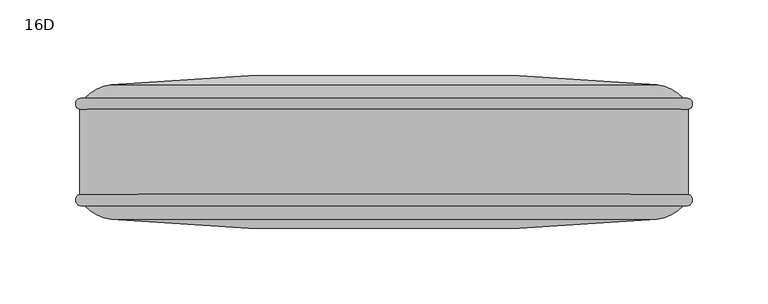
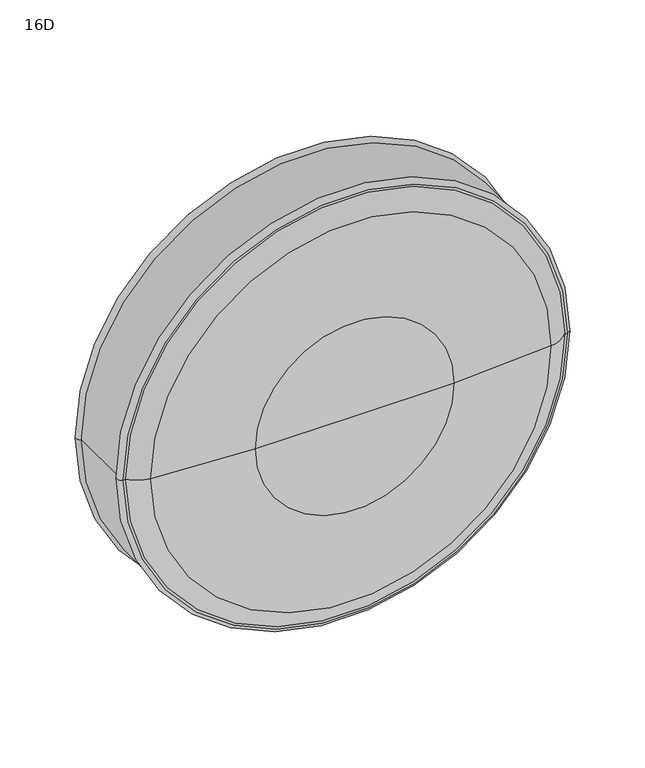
"""IFC4 building model written with IfcOpenShell, lengths in millimetres: furniture geometry, Steelcase Coalesse - Evaneau - Seating - Round Back Pillow : 16D."""

from ifc_helpers import new_model, si_unit, point, frame, origin, place, context, project, spatial, circle_curve, ellipse_curve, trimmed, source, transform, mapped, element, save
from ifc_brep_helpers import plane_surface, revolved_surface, advanced_brep


def furniture_16d_863c8917(model_context):
    return source(origin(), model_context, "Body", "AdvancedBrep", [
        advanced_brep(
        [(-551.4822406, 211.5061362, 635.147828), (-372.5573422, 211.5061362, 635.147828), (-462.0197914, 211.5061362, 635.147828), (-642.5702853, 217.4372422, 635.147828), (-281.4692975, 217.4372422, 635.147828), (-660.1224116, 226.3650403, 635.147828), (-263.9171712, 226.3650403, 635.147828), (-662.2956364, 226.3650403, 635.147828), (-261.7439464, 226.3650403, 635.147828), (-663.1870501, 233.7918762, 635.147828), (-260.8525326, 233.7918762, 635.147828), (-663.1870501, 290.0927336, 635.147828), (-260.8525326, 290.0927336, 635.147828), (-662.2956364, 297.5195695, 635.147828), (-261.7439464, 297.5195695, 635.147828), (-660.1224116, 297.5195695, 635.147828), (-263.9171712, 297.5195695, 635.147828), (-642.5702853, 306.4473676, 635.147828), (-281.4692975, 306.4473676, 635.147828), (-551.4822406, 312.3784735, 635.147828), (-372.5573422, 312.3784735, 635.147828), (-462.0197914, 312.3784735, 635.147828)],
        [
            (0, 1, circle_curve(frame((-462.0197914, 211.5061362, 635.147828), z_axis=(0.0, -1.0, 0.0), x_axis=(1.0, 0.0, 0.0)), 89.4624492)),
            (1, 2),
            (2, 0),
            (1, 0, circle_curve(frame((-462.0197914, 211.5061362, 635.147828), z_axis=(0.0, -1.0, 0.0), x_axis=(1.0, 0.0, 0.0)), 89.4624492)),
            (3, 4, circle_curve(frame((-462.0197914, 217.4372422, 635.147828), z_axis=(0.0, -1.0, 0.0), x_axis=(1.0, 0.0, 0.0)), 180.5504939)),
            (4, 1, circle_curve(frame((-372.5573422, 913.9223398, 635.147828), z_axis=(0.0, 0.0, -1.0), x_axis=(-1.0, 0.0, 0.0)), 702.4162036)),
            (0, 3, circle_curve(frame((-551.4822406, 913.9223398, 635.147828), z_axis=(0.0, 0.0, -1.0), x_axis=(1.0, 0.0, 0.0)), 702.4162036)),
            (4, 3, circle_curve(frame((-462.0197914, 217.4372422, 635.147828), z_axis=(0.0, -1.0, 0.0), x_axis=(1.0, 0.0, 0.0)), 180.5504939)),
            (5, 6, circle_curve(frame((-462.0197914, 226.3650403, 635.147828), z_axis=(0.0, -1.0, 0.0), x_axis=(1.0, 0.0, 0.0)), 198.1026202)),
            (6, 4, circle_curve(frame((-285.2926528, 246.6717041, 635.147828), z_axis=(0.0, 0.0, -1.0), x_axis=(-1.0, 0.0, 0.0)), 29.4834159)),
            (3, 5, circle_curve(frame((-638.74693, 246.6717041, 635.147828), z_axis=(0.0, 0.0, -1.0), x_axis=(1.0, 0.0, 0.0)), 29.4834159)),
            (6, 5, circle_curve(frame((-462.0197914, 226.3650403, 635.147828), z_axis=(0.0, -1.0, 0.0), x_axis=(1.0, 0.0, 0.0)), 198.1026202)),
            (7, 8, circle_curve(frame((-462.0197914, 226.3650403, 635.147828), z_axis=(0.0, -1.0, 0.0), x_axis=(1.0, 0.0, 0.0)), 200.275845)),
            (8, 6),
            (5, 7),
            (8, 7, circle_curve(frame((-462.0197914, 226.3650403, 635.147828), z_axis=(0.0, -1.0, 0.0), x_axis=(1.0, 0.0, 0.0)), 200.275845)),
            (9, 10, circle_curve(frame((-462.0197914, 233.7918762, 635.147828), z_axis=(0.0, -1.0, 0.0), x_axis=(1.0, 0.0, 0.0)), 201.1672588)),
            (10, 8, circle_curve(frame((-261.7439464, 230.1319547, 635.147828), z_axis=(0.0, 0.0, -1.0), x_axis=(-1.0, 0.0, 0.0)), 3.7669144)),
            (7, 9, circle_curve(frame((-662.2956364, 230.1319547, 635.147828), z_axis=(0.0, 0.0, -1.0), x_axis=(1.0, 0.0, 0.0)), 3.7669144)),
            (10, 9, circle_curve(frame((-462.0197914, 233.7918762, 635.147828), z_axis=(0.0, -1.0, 0.0), x_axis=(1.0, 0.0, 0.0)), 201.1672588)),
            (11, 12, circle_curve(frame((-462.0197914, 290.0927336, 635.147828), z_axis=(0.0, -1.0, 0.0), x_axis=(1.0, 0.0, 0.0)), 201.1672588)),
            (12, 10, circle_curve(frame((-834.2739663, 261.9423049, 635.147828), z_axis=(0.0, 0.0, -1.0), x_axis=(-1.0, 0.0, 0.0)), 574.1119988)),
            (9, 11, circle_curve(frame((-89.7656165, 261.9423049, 635.147828), z_axis=(0.0, 0.0, -1.0), x_axis=(1.0, 0.0, 0.0)), 574.1119988)),
            (12, 11, circle_curve(frame((-462.0197914, 290.0927336, 635.147828), z_axis=(0.0, -1.0, 0.0), x_axis=(1.0, 0.0, 0.0)), 201.1672588)),
            (13, 14, circle_curve(frame((-462.0197914, 297.5195695, 635.147828), z_axis=(0.0, -1.0, 0.0), x_axis=(1.0, 0.0, 0.0)), 200.275845)),
            (14, 12, circle_curve(frame((-261.7439464, 293.7526551, 635.147828), z_axis=(0.0, 0.0, -1.0), x_axis=(-1.0, 0.0, 0.0)), 3.7669144)),
            (11, 13, circle_curve(frame((-662.2956364, 293.7526551, 635.147828), z_axis=(0.0, 0.0, -1.0), x_axis=(1.0, 0.0, 0.0)), 3.7669144)),
            (14, 13, circle_curve(frame((-462.0197914, 297.5195695, 635.147828), z_axis=(0.0, -1.0, 0.0), x_axis=(1.0, 0.0, 0.0)), 200.275845)),
            (15, 16, circle_curve(frame((-462.0197914, 297.5195695, 635.147828), z_axis=(0.0, -1.0, 0.0), x_axis=(1.0, 0.0, 0.0)), 198.1026202)),
            (16, 14),
            (13, 15),
            (16, 15, circle_curve(frame((-462.0197914, 297.5195695, 635.147828), z_axis=(0.0, -1.0, 0.0), x_axis=(1.0, 0.0, 0.0)), 198.1026202)),
            (17, 18, circle_curve(frame((-462.0197914, 306.4473676, 635.147828), z_axis=(0.0, -1.0, 0.0), x_axis=(1.0, 0.0, 0.0)), 180.5504939)),
            (18, 16, circle_curve(frame((-285.2926528, 277.2129056, 635.147828), z_axis=(0.0, 0.0, -1.0), x_axis=(-1.0, 0.0, 0.0)), 29.4834159)),
            (15, 17, circle_curve(frame((-638.74693, 277.2129056, 635.147828), z_axis=(0.0, 0.0, -1.0), x_axis=(1.0, 0.0, 0.0)), 29.4834159)),
            (18, 17, circle_curve(frame((-462.0197914, 306.4473676, 635.147828), z_axis=(0.0, -1.0, 0.0), x_axis=(1.0, 0.0, 0.0)), 180.5504939)),
            (19, 20, circle_curve(frame((-462.0197914, 312.3784735, 635.147828), z_axis=(0.0, -1.0, 0.0), x_axis=(1.0, 0.0, 0.0)), 89.4624492)),
            (20, 18, circle_curve(frame((-372.5573422, -390.0377301, 635.147828), z_axis=(0.0, 0.0, -1.0), x_axis=(-1.0, 0.0, 0.0)), 702.4162036)),
            (17, 19, circle_curve(frame((-551.4822406, -390.0377301, 635.147828), z_axis=(0.0, 0.0, -1.0), x_axis=(1.0, 0.0, 0.0)), 702.4162036)),
            (20, 19, circle_curve(frame((-462.0197914, 312.3784735, 635.147828), z_axis=(0.0, -1.0, 0.0), x_axis=(1.0, 0.0, 0.0)), 89.4624492)),
            (21, 20),
            (19, 21),
        ],
        [
            plane_surface(frame((-462.0197914, 211.5061362, 635.147828), z_axis=(0.0, -1.0, 0.0), x_axis=(1.0, 0.0, 0.0))),
            revolved_surface(trimmed(ellipse_curve(frame((-372.5573422, 913.9223398, 635.147828), z_axis=(0.0, 0.0, 1.0), x_axis=(-1.0, 0.0, 0.0)), 702.4162036, 702.4162036), [point((-372.5573422, 211.5061362, 635.147828))], [point((-281.4692975, 217.4372422, 635.147828))], True, "CARTESIAN"), (-462.0197914, 249.6061362, 635.147828), (0.0, 1.0, 0.0)),
            revolved_surface(trimmed(ellipse_curve(frame((-285.2926528, 246.6717041, 635.147828), z_axis=(0.0, 0.0, 1.0), x_axis=(-1.0, 0.0, 0.0)), 29.4834159, 29.4834159), [point((-281.4692975, 217.4372422, 635.147828))], [point((-263.9171712, 226.3650403, 635.147828))], True, "CARTESIAN"), (-462.0197914, 249.6061362, 635.147828), (0.0, 1.0, 0.0)),
            plane_surface(frame((-462.0197914, 226.3650403, 635.147828), z_axis=(0.0, -1.0, 0.0), x_axis=(1.0, 0.0, 0.0))),
            revolved_surface(trimmed(ellipse_curve(frame((-261.7439464, 230.1319547, 635.147828), z_axis=(0.0, 0.0, 1.0), x_axis=(-1.0, 0.0, 0.0)), 3.7669144, 3.7669144), [point((-261.7439464, 226.3650403, 635.147828))], [point((-260.8525326, 233.7918762, 635.147828))], True, "CARTESIAN"), (-462.0197914, 249.6061362, 635.147828), (0.0, 1.0, 0.0)),
            revolved_surface(trimmed(ellipse_curve(frame((-834.2739663, 261.9423049, 635.147828), z_axis=(0.0, 0.0, 1.0), x_axis=(-1.0, 0.0, 0.0)), 574.1119988, 574.1119988), [point((-260.8525326, 233.7918762, 635.147828))], [point((-260.8525326, 290.0927336, 635.147828))], True, "CARTESIAN"), (-462.0197914, 249.6061362, 635.147828), (0.0, 1.0, 0.0)),
            revolved_surface(trimmed(ellipse_curve(frame((-261.7439464, 293.7526551, 635.147828), z_axis=(0.0, 0.0, 1.0), x_axis=(-1.0, 0.0, 0.0)), 3.7669144, 3.7669144), [point((-260.8525326, 290.0927336, 635.147828))], [point((-261.7439464, 297.5195695, 635.147828))], True, "CARTESIAN"), (-462.0197914, 249.6061362, 635.147828), (0.0, 1.0, 0.0)),
            plane_surface(frame((-462.0197914, 297.5195695, 635.147828), z_axis=(0.0, 1.0, 0.0), x_axis=(1.0, 0.0, 0.0))),
            revolved_surface(trimmed(ellipse_curve(frame((-285.2926528, 277.2129056, 635.147828), z_axis=(0.0, 0.0, 1.0), x_axis=(-1.0, 0.0, 0.0)), 29.4834159, 29.4834159), [point((-263.9171712, 297.5195695, 635.147828))], [point((-281.4692975, 306.4473676, 635.147828))], True, "CARTESIAN"), (-462.0197914, 249.6061362, 635.147828), (0.0, 1.0, 0.0)),
            revolved_surface(trimmed(ellipse_curve(frame((-372.5573422, -390.0377301, 635.147828), z_axis=(0.0, 0.0, 1.0), x_axis=(-1.0, 0.0, 0.0)), 702.4162036, 702.4162036), [point((-281.4692975, 306.4473676, 635.147828))], [point((-372.5573422, 312.3784735, 635.147828))], True, "CARTESIAN"), (-462.0197914, 249.6061362, 635.147828), (0.0, 1.0, 0.0)),
            plane_surface(frame((-462.0197914, 312.3784735, 635.147828), z_axis=(0.0, 1.0, 0.0), x_axis=(1.0, 0.0, 0.0))),
        ],
        [
            (0, [[1, 2, 3]]),
            (0, [[4, -3, -2]]),
            (1, [[5, 6, -1, 7]]),
            (1, [[8, -7, -4, -6]]),
            (2, [[9, 10, -5, 11]]),
            (2, [[12, -11, -8, -10]]),
            (3, [[13, 14, -9, 15]]),
            (3, [[16, -15, -12, -14]]),
            (4, [[17, 18, -13, 19]]),
            (4, [[20, -19, -16, -18]]),
            (5, [[21, 22, -17, 23]]),
            (5, [[24, -23, -20, -22]]),
            (6, [[25, 26, -21, 27]]),
            (6, [[28, -27, -24, -26]]),
            (7, [[29, 30, -25, 31]]),
            (7, [[32, -31, -28, -30]]),
            (8, [[33, 34, -29, 35]]),
            (8, [[36, -35, -32, -34]]),
            (9, [[37, 38, -33, 39]]),
            (9, [[40, -39, -36, -38]]),
            (10, [[41, -37, 42]]),
            (10, [[-42, -40, -41]]),
        ],
    ),
    ])


if __name__ == "__main__":
    model = new_model("IFC4")
    model_context = context("Model", 3, world=origin())
    ifc_project = project(units=[si_unit("LENGTHUNIT", "METRE", prefix="MILLI")], contexts=[model_context])
    site = spatial("IfcSite", under=ifc_project)
    building = spatial("IfcBuilding", under=site)
    placement = place(None, origin())
    furniture_16d_shape = furniture_16d_863c8917(model_context)
    element("IfcFurniture", 1, ObjectType="Steelcase Coalesse - Evaneau - Seating - Round Back Pillow : 16D", at=placement, inside=building, context=model_context, shape_type="MappedRepresentation", body=[
        mapped(furniture_16d_shape, transform((0.0, 0.0, 0.0), x_axis=(1.0, 0.0, 0.0), y_axis=(0.0, 1.0, 0.0), z_axis=(0.0, 0.0, 1.0))),
    ])
    save(model, "model.ifc")
